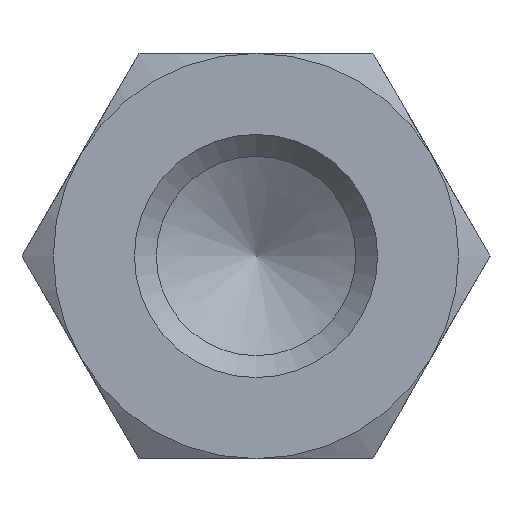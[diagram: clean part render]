
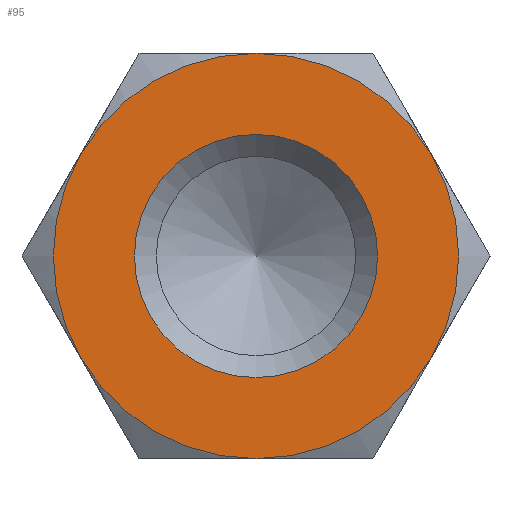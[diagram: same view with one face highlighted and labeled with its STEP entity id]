
A CAD part, left-side view. The second image highlights one B-rep face of the part: STEP entity #95.
In plain terms, the highlighted planar face has unit normal (-1, 0, 0).
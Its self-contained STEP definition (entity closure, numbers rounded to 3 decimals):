
#95 = ADVANCED_FACE( '', ( #147, #148 ), #149, .F. );
#147 = FACE_OUTER_BOUND( '', #206, .T. );
#148 = FACE_BOUND( '', #207, .T. );
#149 = PLANE( '', #208 );
#206 = EDGE_LOOP( '', ( #356, #357, #358, #359, #360, #361 ) );
#207 = EDGE_LOOP( '', ( #362 ) );
#208 = AXIS2_PLACEMENT_3D( '', #363, #364, #365 );
#356 = ORIENTED_EDGE( '', *, *, #440, .F. );
#357 = ORIENTED_EDGE( '', *, *, #425, .F. );
#358 = ORIENTED_EDGE( '', *, *, #441, .F. );
#359 = ORIENTED_EDGE( '', *, *, #437, .F. );
#360 = ORIENTED_EDGE( '', *, *, #442, .F. );
#361 = ORIENTED_EDGE( '', *, *, #443, .F. );
#362 = ORIENTED_EDGE( '', *, *, #439, .T. );
#363 = CARTESIAN_POINT( '', ( -30., 0., 0. ) );
#364 = DIRECTION( '', ( 1., 0., 0. ) );
#365 = DIRECTION( '', ( 0., 0., -1. ) );
#425 = EDGE_CURVE( '', #495, #493, #497, .T. );
#437 = EDGE_CURVE( '', #447, #506, #513, .T. );
#439 = EDGE_CURVE( '', #516, #516, #517, .T. );
#440 = EDGE_CURVE( '', #493, #486, #518, .T. );
#441 = EDGE_CURVE( '', #506, #495, #519, .T. );
#442 = EDGE_CURVE( '', #481, #447, #520, .T. );
#443 = EDGE_CURVE( '', #486, #481, #521, .T. );
#447 = VERTEX_POINT( '', #525 );
#481 = VERTEX_POINT( '', #601 );
#486 = VERTEX_POINT( '', #617 );
#493 = VERTEX_POINT( '', #642 );
#495 = VERTEX_POINT( '', #647 );
#497 = CIRCLE( '', #654, 5. );
#506 = VERTEX_POINT( '', #680 );
#513 = CIRCLE( '', #717, 5. );
#516 = VERTEX_POINT( '', #720 );
#517 = CIRCLE( '', #721, 3. );
#518 = CIRCLE( '', #722, 5. );
#519 = CIRCLE( '', #723, 5. );
#520 = CIRCLE( '', #724, 5. );
#521 = CIRCLE( '', #725, 5. );
#525 = CARTESIAN_POINT( '', ( -30., -4.33, 2.5 ) );
#601 = CARTESIAN_POINT( '', ( -30., 0., 5. ) );
#617 = CARTESIAN_POINT( '', ( -30., 4.33, 2.5 ) );
#642 = CARTESIAN_POINT( '', ( -30., 4.33, -2.5 ) );
#647 = CARTESIAN_POINT( '', ( -30., 0., -5. ) );
#654 = AXIS2_PLACEMENT_3D( '', #760, #761, #762 );
#680 = CARTESIAN_POINT( '', ( -30., -4.33, -2.5 ) );
#717 = AXIS2_PLACEMENT_3D( '', #765, #766, #767 );
#720 = CARTESIAN_POINT( '', ( -30., 3., 0. ) );
#721 = AXIS2_PLACEMENT_3D( '', #771, #772, #773 );
#722 = AXIS2_PLACEMENT_3D( '', #774, #775, #776 );
#723 = AXIS2_PLACEMENT_3D( '', #777, #778, #779 );
#724 = AXIS2_PLACEMENT_3D( '', #780, #781, #782 );
#725 = AXIS2_PLACEMENT_3D( '', #783, #784, #785 );
#760 = CARTESIAN_POINT( '', ( -30., 0., 0. ) );
#761 = DIRECTION( '', ( 1., 0., 0. ) );
#762 = DIRECTION( '', ( 0., 0., -1. ) );
#765 = CARTESIAN_POINT( '', ( -30., 0., 0. ) );
#766 = DIRECTION( '', ( 1., 0., 0. ) );
#767 = DIRECTION( '', ( 0., 0., -1. ) );
#771 = CARTESIAN_POINT( '', ( -30., 0., 0. ) );
#772 = DIRECTION( '', ( 1., 0., 0. ) );
#773 = DIRECTION( '', ( 0., 1., 0. ) );
#774 = CARTESIAN_POINT( '', ( -30., 0., 0. ) );
#775 = DIRECTION( '', ( 1., 0., 0. ) );
#776 = DIRECTION( '', ( 0., 0., -1. ) );
#777 = CARTESIAN_POINT( '', ( -30., 0., 0. ) );
#778 = DIRECTION( '', ( 1., 0., 0. ) );
#779 = DIRECTION( '', ( 0., 0., -1. ) );
#780 = CARTESIAN_POINT( '', ( -30., 0., 0. ) );
#781 = DIRECTION( '', ( 1., 0., 0. ) );
#782 = DIRECTION( '', ( 0., 0., -1. ) );
#783 = CARTESIAN_POINT( '', ( -30., 0., 0. ) );
#784 = DIRECTION( '', ( 1., 0., 0. ) );
#785 = DIRECTION( '', ( 0., 0., -1. ) );
